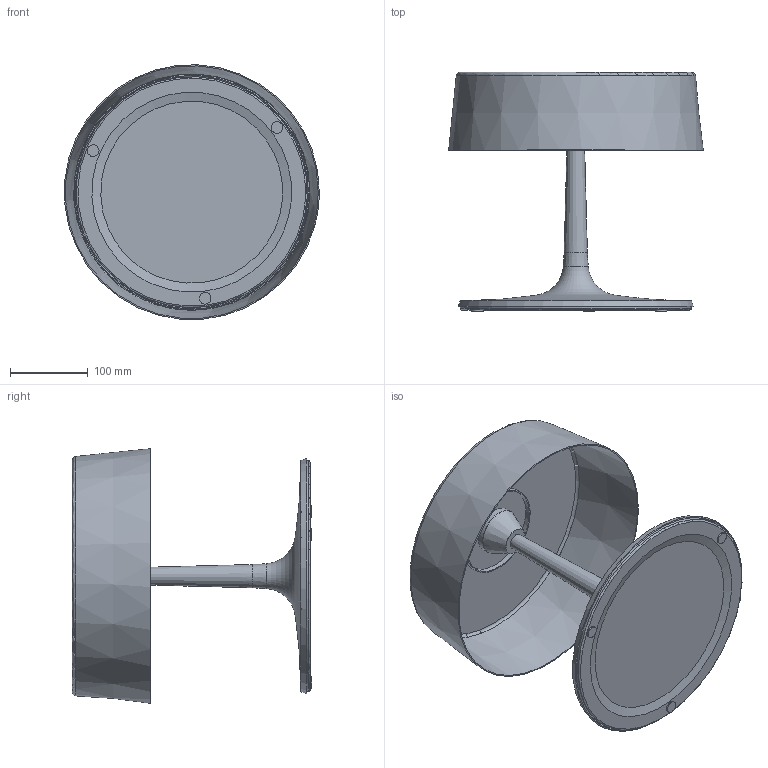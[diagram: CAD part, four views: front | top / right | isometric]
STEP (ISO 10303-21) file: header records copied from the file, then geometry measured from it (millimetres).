
FILE_DESCRIPTION(/* description */ (''),/* implementation_level */ '2;1');
FILE_NAME(/* name */ 'C:\Users\STEFANO\Desktop\3D SEM\0308-00 - CHINA TAVOLO MEDIUM F.E\Assieme20.stp',/* time_stamp */ '2019-09-20T17:15:03+02:00',/* author */ ('STEFANO'),/* organization */ (''),/* preprocessor_version */ 'ST-DEVELOPER v17',/* originating_system */ 'Autodesk Inventor 2019',/* authorisation */ '');
FILE_SCHEMA (('AUTOMOTIVE_DESIGN { 1 0 10303 214 3 1 1 }'));
Length unit declared in the file: millimetre
Products named in the file (7): Assieme20; Parte4; Parte5; Parte3; Parte218; Parte7; Parte233
Assembly tree (6 placements, depth 2):
  Assieme20
    Parte4
    Parte5
    Parte3
    Parte218
    Parte7
    Parte233
Bounding box: 327.41 x 307.47 x 327.22 mm (x, y, z)
Volume: 836795.1 mm3; surface area: 721205.3 mm2
Topology: 8 solids, 8 shells, 55 faces, 131 edges, 97 vertices
Faces by surface type: plane 21, cone 15, cylinder 9, torus 8, bspline 2
Full cylindrical faces by diameter (mm): 10 x1, 15 x3, 58 x1, 60 x1, 113 x1, 116 x1, 297 x1
Entity records: 2005 total; most frequent: DIRECTION 370, CARTESIAN_POINT 348, ORIENTED_EDGE 262, AXIS2_PLACEMENT_3D 173, EDGE_CURVE 131, CIRCLE 107, VERTEX_POINT 97, EDGE_LOOP 62
